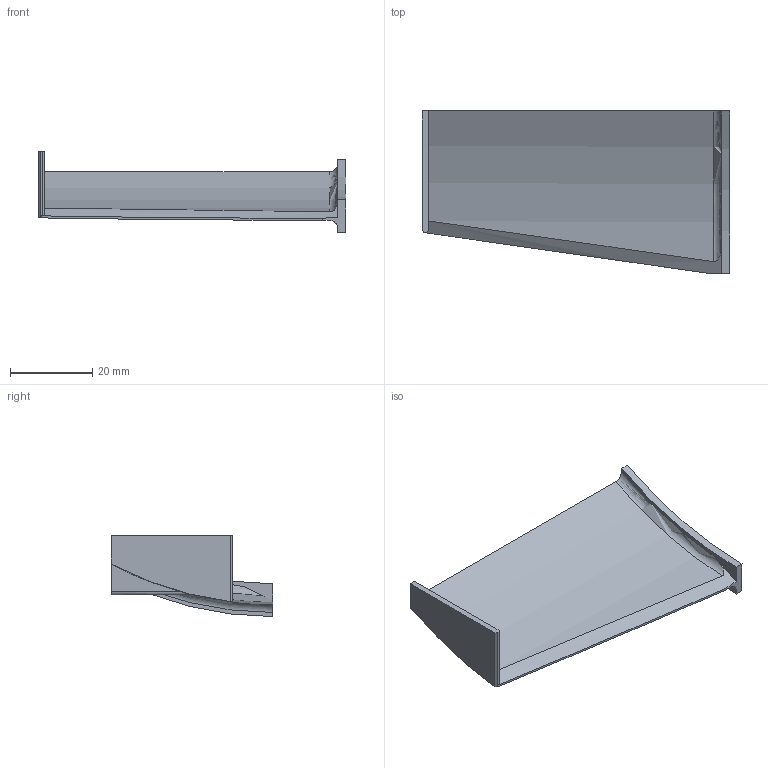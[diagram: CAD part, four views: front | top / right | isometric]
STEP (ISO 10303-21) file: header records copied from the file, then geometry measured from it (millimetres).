
FILE_DESCRIPTION(/* description */ (''),/* implementation_level */ '2;1');
FILE_NAME(/* name */ '1-18-1 Front right spoiler.step',/* time_stamp */ '2025-05-10T21:34:35+02:00',/* author */ (''),/* organization */ (''),/* preprocessor_version */ 'ST-DEVELOPER v20.1',/* originating_system */ 'Autodesk Translation Framework v14.4.0.0',/* authorisation */ '');
FILE_SCHEMA (('AUTOMOTIVE_DESIGN { 1 0 10303 214 3 1 1 }'));
Length unit declared in the file: millimetre
Products named in the file (1): 1-18-1 Front right spoiler
Bounding box: 75 x 39.51 x 19.79 mm (x, y, z)
Volume: 6371.6 mm3; surface area: 7308.7 mm2
Topology: 1 solids, 1 shells, 32 faces, 87 edges, 58 vertices
Faces by surface type: plane 22, cylinder 7, torus 2, bspline 1
Entity records: 1260 total; most frequent: CARTESIAN_POINT 402, ORIENTED_EDGE 174, DIRECTION 169, EDGE_CURVE 87, AXIS2_PLACEMENT_3D 60, VERTEX_POINT 58, LINE 49, VECTOR 49
